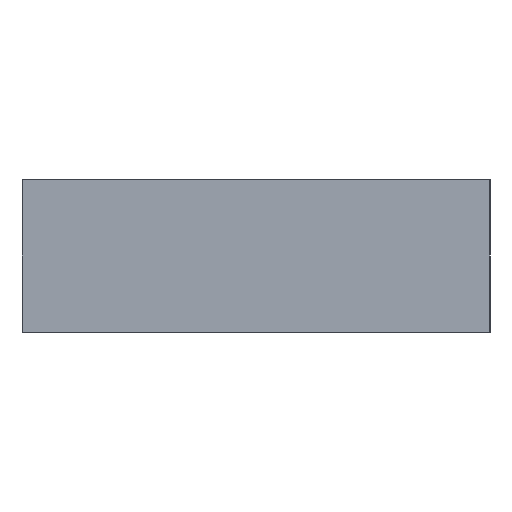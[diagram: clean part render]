
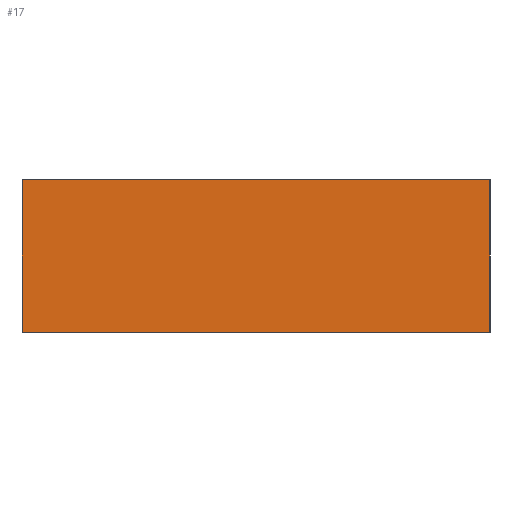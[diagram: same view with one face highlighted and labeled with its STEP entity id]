
A CAD part, left-side view. The second image highlights one B-rep face of the part: STEP entity #17.
In plain terms, the highlighted planar face has unit normal (-1, 0, 0).
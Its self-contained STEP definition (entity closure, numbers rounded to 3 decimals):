
#17 = ADVANCED_FACE('',(#18),#32,.F.);
#18 = FACE_BOUND('',#19,.F.);
#19 = EDGE_LOOP('',(#20,#55,#83,#111));
#20 = ORIENTED_EDGE('',*,*,#21,.F.);
#21 = EDGE_CURVE('',#22,#24,#26,.T.);
#22 = VERTEX_POINT('',#23);
#23 = CARTESIAN_POINT('',(-28.5,-52.94,-12.971));
#24 = VERTEX_POINT('',#25);
#25 = CARTESIAN_POINT('',(-28.5,-52.94,-12.71));
#26 = SURFACE_CURVE('',#27,(#31,#43),.PCURVE_S1.);
#27 = LINE('',#28,#29);
#28 = CARTESIAN_POINT('',(-28.5,-52.94,-12.971));
#29 = VECTOR('',#30,1.);
#30 = DIRECTION('',(0.,0.,1.));
#31 = PCURVE('',#32,#37);
#32 = PLANE('',#33);
#33 = AXIS2_PLACEMENT_3D('',#34,#35,#36);
#34 = CARTESIAN_POINT('',(-28.5,-52.94,-12.971));
#35 = DIRECTION('',(1.,0.,-0.));
#36 = DIRECTION('',(0.,0.,1.));
#37 = DEFINITIONAL_REPRESENTATION('',(#38),#42);
#38 = LINE('',#39,#40);
#39 = CARTESIAN_POINT('',(0.,0.));
#40 = VECTOR('',#41,1.);
#41 = DIRECTION('',(1.,0.));
#42 = ( GEOMETRIC_REPRESENTATION_CONTEXT(2) 
PARAMETRIC_REPRESENTATION_CONTEXT() REPRESENTATION_CONTEXT('2D SPACE',''
  ) );
#43 = PCURVE('',#44,#49);
#44 = PLANE('',#45);
#45 = AXIS2_PLACEMENT_3D('',#46,#47,#48);
#46 = CARTESIAN_POINT('',(-28.5,-52.94,-12.971));
#47 = DIRECTION('',(-0.,1.,0.));
#48 = DIRECTION('',(0.,0.,1.));
#49 = DEFINITIONAL_REPRESENTATION('',(#50),#54);
#50 = LINE('',#51,#52);
#51 = CARTESIAN_POINT('',(0.,0.));
#52 = VECTOR('',#53,1.);
#53 = DIRECTION('',(1.,0.));
#54 = ( GEOMETRIC_REPRESENTATION_CONTEXT(2) 
PARAMETRIC_REPRESENTATION_CONTEXT() REPRESENTATION_CONTEXT('2D SPACE',''
  ) );
#55 = ORIENTED_EDGE('',*,*,#56,.T.);
#56 = EDGE_CURVE('',#22,#57,#59,.T.);
#57 = VERTEX_POINT('',#58);
#58 = CARTESIAN_POINT('',(-28.5,-52.14,-12.971));
#59 = SURFACE_CURVE('',#60,(#64,#71),.PCURVE_S1.);
#60 = LINE('',#61,#62);
#61 = CARTESIAN_POINT('',(-28.5,-52.94,-12.971));
#62 = VECTOR('',#63,1.);
#63 = DIRECTION('',(-0.,1.,0.));
#64 = PCURVE('',#32,#65);
#65 = DEFINITIONAL_REPRESENTATION('',(#66),#70);
#66 = LINE('',#67,#68);
#67 = CARTESIAN_POINT('',(0.,0.));
#68 = VECTOR('',#69,1.);
#69 = DIRECTION('',(0.,-1.));
#70 = ( GEOMETRIC_REPRESENTATION_CONTEXT(2) 
PARAMETRIC_REPRESENTATION_CONTEXT() REPRESENTATION_CONTEXT('2D SPACE',''
  ) );
#71 = PCURVE('',#72,#77);
#72 = PLANE('',#73);
#73 = AXIS2_PLACEMENT_3D('',#74,#75,#76);
#74 = CARTESIAN_POINT('',(-28.5,-52.94,-12.971));
#75 = DIRECTION('',(0.,0.,1.));
#76 = DIRECTION('',(1.,0.,-0.));
#77 = DEFINITIONAL_REPRESENTATION('',(#78),#82);
#78 = LINE('',#79,#80);
#79 = CARTESIAN_POINT('',(0.,0.));
#80 = VECTOR('',#81,1.);
#81 = DIRECTION('',(0.,1.));
#82 = ( GEOMETRIC_REPRESENTATION_CONTEXT(2) 
PARAMETRIC_REPRESENTATION_CONTEXT() REPRESENTATION_CONTEXT('2D SPACE',''
  ) );
#83 = ORIENTED_EDGE('',*,*,#84,.T.);
#84 = EDGE_CURVE('',#57,#85,#87,.T.);
#85 = VERTEX_POINT('',#86);
#86 = CARTESIAN_POINT('',(-28.5,-52.14,-12.71));
#87 = SURFACE_CURVE('',#88,(#92,#99),.PCURVE_S1.);
#88 = LINE('',#89,#90);
#89 = CARTESIAN_POINT('',(-28.5,-52.14,-12.971));
#90 = VECTOR('',#91,1.);
#91 = DIRECTION('',(0.,0.,1.));
#92 = PCURVE('',#32,#93);
#93 = DEFINITIONAL_REPRESENTATION('',(#94),#98);
#94 = LINE('',#95,#96);
#95 = CARTESIAN_POINT('',(0.,-0.8));
#96 = VECTOR('',#97,1.);
#97 = DIRECTION('',(1.,0.));
#98 = ( GEOMETRIC_REPRESENTATION_CONTEXT(2) 
PARAMETRIC_REPRESENTATION_CONTEXT() REPRESENTATION_CONTEXT('2D SPACE',''
  ) );
#99 = PCURVE('',#100,#105);
#100 = PLANE('',#101);
#101 = AXIS2_PLACEMENT_3D('',#102,#103,#104);
#102 = CARTESIAN_POINT('',(-28.5,-52.14,-12.971));
#103 = DIRECTION('',(-0.,1.,0.));
#104 = DIRECTION('',(0.,0.,1.));
#105 = DEFINITIONAL_REPRESENTATION('',(#106),#110);
#106 = LINE('',#107,#108);
#107 = CARTESIAN_POINT('',(0.,0.));
#108 = VECTOR('',#109,1.);
#109 = DIRECTION('',(1.,0.));
#110 = ( GEOMETRIC_REPRESENTATION_CONTEXT(2) 
PARAMETRIC_REPRESENTATION_CONTEXT() REPRESENTATION_CONTEXT('2D SPACE',''
  ) );
#111 = ORIENTED_EDGE('',*,*,#112,.F.);
#112 = EDGE_CURVE('',#24,#85,#113,.T.);
#113 = SURFACE_CURVE('',#114,(#118,#125),.PCURVE_S1.);
#114 = LINE('',#115,#116);
#115 = CARTESIAN_POINT('',(-28.5,-52.94,-12.71));
#116 = VECTOR('',#117,1.);
#117 = DIRECTION('',(-0.,1.,0.));
#118 = PCURVE('',#32,#119);
#119 = DEFINITIONAL_REPRESENTATION('',(#120),#124);
#120 = LINE('',#121,#122);
#121 = CARTESIAN_POINT('',(0.261,0.));
#122 = VECTOR('',#123,1.);
#123 = DIRECTION('',(0.,-1.));
#124 = ( GEOMETRIC_REPRESENTATION_CONTEXT(2) 
PARAMETRIC_REPRESENTATION_CONTEXT() REPRESENTATION_CONTEXT('2D SPACE',''
  ) );
#125 = PCURVE('',#126,#131);
#126 = PLANE('',#127);
#127 = AXIS2_PLACEMENT_3D('',#128,#129,#130);
#128 = CARTESIAN_POINT('',(-28.5,-52.94,-12.71));
#129 = DIRECTION('',(0.,0.,1.));
#130 = DIRECTION('',(1.,0.,-0.));
#131 = DEFINITIONAL_REPRESENTATION('',(#132),#136);
#132 = LINE('',#133,#134);
#133 = CARTESIAN_POINT('',(0.,0.));
#134 = VECTOR('',#135,1.);
#135 = DIRECTION('',(0.,1.));
#136 = ( GEOMETRIC_REPRESENTATION_CONTEXT(2) 
PARAMETRIC_REPRESENTATION_CONTEXT() REPRESENTATION_CONTEXT('2D SPACE',''
  ) );
